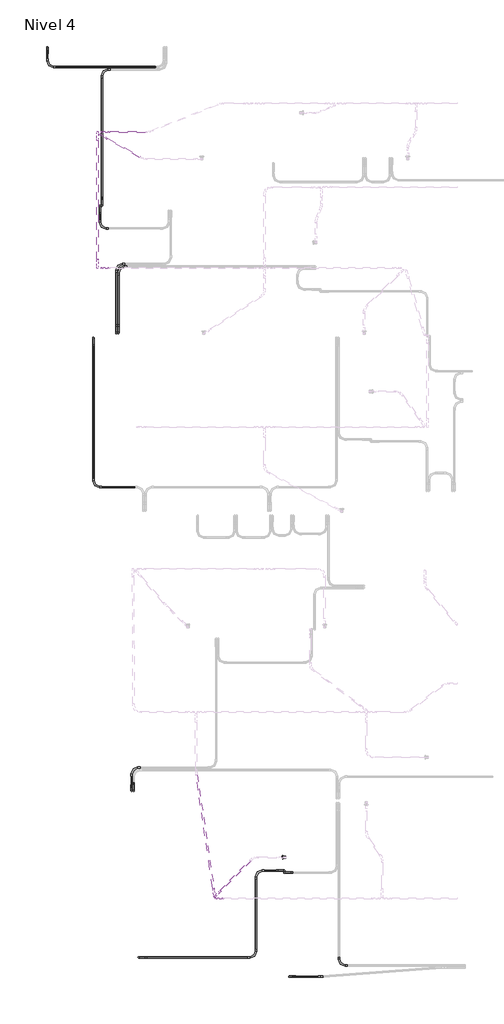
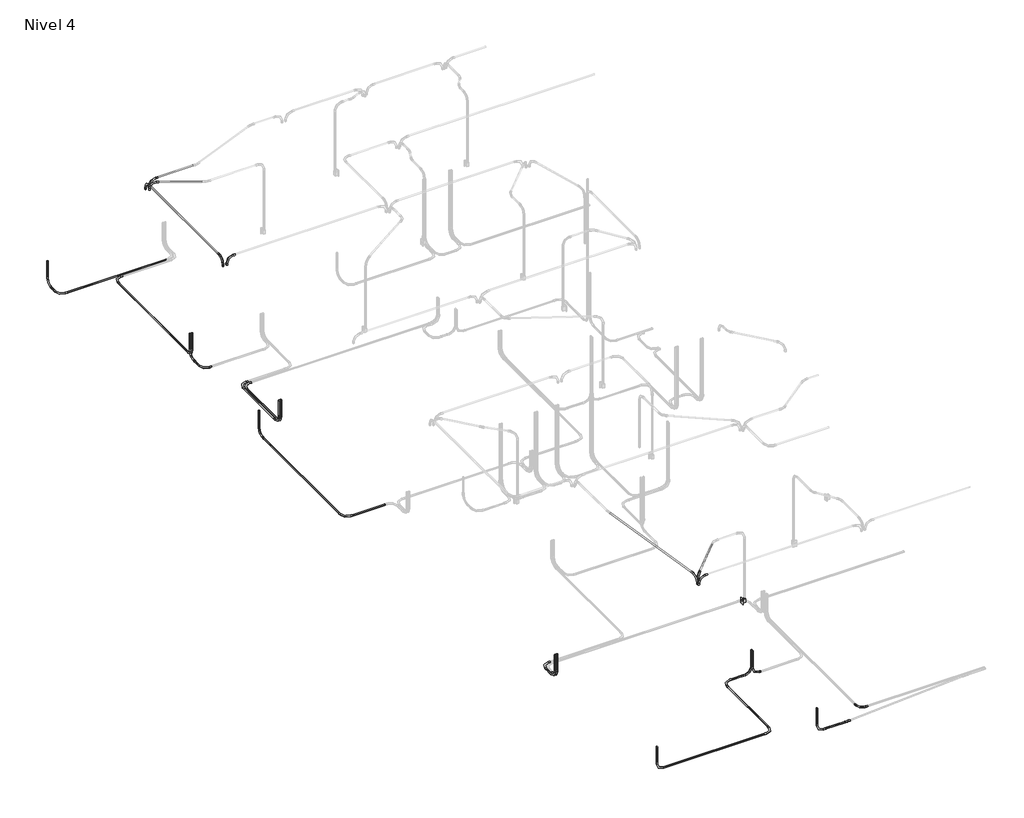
# One storey, part 1 of 9: 31 cable carrier fittings, 30 cable carrier segments, 1 switching device.
"""IFC4 building model written with IfcOpenShell, lengths in millimetres."""

from ifc_helpers import new_model, si_unit, point, frame, frame_2d, origin, place, context, project, spatial, circle_curve, trimmed, segment, composite_curve, outline, extrude, transform, mapped, element, save
from components import m_codo_de_tubo_extremo_liso_pvc_9da73e12, m_codo_de_tubo_extremo_liso_pvc_e945fc89, m_codo_de_tubo_extremo_liso_pvc_102f0f41, switching_device_22fed34b

model = new_model("IFC4")

# Units and contexts
model_context = context("Model", 3, world=origin())
ifc_project = project(units=[si_unit("LENGTHUNIT", "METRE", prefix="MILLI")], contexts=[model_context])

# Site, building, storey
site = spatial("IfcSite", under=ifc_project)
building = spatial("IfcBuilding", under=site)
storey = spatial("IfcBuildingStorey", under=building, Name="Nivel 4", Elevation=8100.0)

# Cable carrier fittings
placement = place(None, origin())
m_codo_de_tubo_extremo_liso_pvc_shape = m_codo_de_tubo_extremo_liso_pvc_9da73e12(model_context)
element("IfcCableCarrierFitting", 1, ObjectType="M_Codo de tubo - Extremo liso - PVC : CODO POTENCIA", at=placement, inside=storey, context=model_context, shape_type="MappedRepresentation", body=[
    mapped(m_codo_de_tubo_extremo_liso_pvc_shape, transform((-1558.5868884, 17544.6371118, 8030.0), x_axis=(0.0, 0.0, -1.0), y_axis=(0.0, -1.0, 0.0), z_axis=(-1.0, 0.0, 0.0))),
])
element("IfcCableCarrierFitting", 2, ObjectType="M_Codo de tubo - Extremo liso - PVC : CODO POTENCIA", at=placement, inside=storey, context=model_context, shape_type="MappedRepresentation", body=[
    mapped(m_codo_de_tubo_extremo_liso_pvc_shape, transform((-717.4920977, 12244.6371118, 8030.0), x_axis=(0.0, 0.0, -1.0), y_axis=(0.0, -1.0, 0.0), z_axis=(-1.0, 0.0, 0.0))),
])
element("IfcCableCarrierFitting", 3, ObjectType="M_Codo de tubo - Extremo liso - PVC : CODO POTENCIA", at=placement, inside=storey, context=model_context, shape_type="MappedRepresentation", body=[
    mapped(m_codo_de_tubo_extremo_liso_pvc_shape, transform((-717.4920977, 9523.463856, 8030.0), x_axis=(0.0, -1.0, 0.0), y_axis=(1.0, 0.0, 0.0), z_axis=(0.0, 0.0, 1.0))),
])
element("IfcCableCarrierFitting", 4, ObjectType="M_Codo de tubo - Extremo liso - PVC : CODO POTENCIA", at=placement, inside=storey, context=model_context, shape_type="MappedRepresentation", body=[
    mapped(m_codo_de_tubo_extremo_liso_pvc_shape, transform((-262.0312302, 13545.7723493, 8030.0), x_axis=(-1.0, 0.0, 0.0), y_axis=(0.0, -1.0, 0.0), z_axis=(0.0, 0.0, 1.0))),
])
element("IfcCableCarrierFitting", 5, ObjectType="M_Codo de tubo - Extremo liso - PVC : CODO POTENCIA", at=placement, inside=storey, context=model_context, shape_type="MappedRepresentation", body=[
    mapped(m_codo_de_tubo_extremo_liso_pvc_shape, transform((-262.0312302, 12335.3628882, 8030.0), x_axis=(0.0, 0.0, -1.0), y_axis=(0.0, 1.0, 0.0), z_axis=(1.0, 0.0, 0.0))),
])
element("IfcCableCarrierFitting", 6, ObjectType="M_Codo de tubo - Extremo liso - PVC : CODO POTENCIA", at=placement, inside=storey, context=model_context, shape_type="MappedRepresentation", body=[
    mapped(m_codo_de_tubo_extremo_liso_pvc_shape, transform((-298.0948698, 13596.0465616, 8030.0), x_axis=(-1.0, 0.0, 0.0), y_axis=(0.0, -1.0, 0.0), z_axis=(0.0, 0.0, 1.0))),
])
element("IfcCableCarrierFitting", 7, ObjectType="M_Codo de tubo - Extremo liso - PVC : CODO POTENCIA", at=placement, inside=storey, context=model_context, shape_type="MappedRepresentation", body=[
    mapped(m_codo_de_tubo_extremo_liso_pvc_shape, transform((-298.0948698, 12335.3628882, 8030.0), x_axis=(0.0, 0.0, -1.0), y_axis=(0.0, 1.0, 0.0), z_axis=(1.0, 0.0, 0.0))),
])
element("IfcCableCarrierFitting", 8, ObjectType="M_Codo de tubo - Extremo liso - PVC : CODO POTENCIA", at=placement, inside=storey, context=model_context, shape_type="MappedRepresentation", body=[
    mapped(m_codo_de_tubo_extremo_liso_pvc_shape, transform((-598.1296744, 14653.8429955, 8030.0), x_axis=(0.0, 0.0, -1.0), y_axis=(0.0, -1.0, 0.0), z_axis=(-1.0, 0.0, 0.0))),
])
element("IfcCableCarrierFitting", 9, ObjectType="M_Codo de tubo - Extremo liso - PVC : CODO POTENCIA", at=placement, inside=storey, context=model_context, shape_type="MappedRepresentation", body=[
    mapped(m_codo_de_tubo_extremo_liso_pvc_shape, transform((-598.1296744, 14243.117219, 8030.0), x_axis=(0.0, -1.0, 0.0), y_axis=(1.0, 0.0, 0.0), z_axis=(0.0, 0.0, 1.0))),
])
element("IfcCableCarrierFitting", 10, ObjectType="M_Codo de tubo - Extremo liso - PVC : CODO POTENCIA", at=placement, inside=storey, context=model_context, shape_type="MappedRepresentation", body=[
    mapped(m_codo_de_tubo_extremo_liso_pvc_shape, transform((-562.0660348, 17141.7513363, 8030.0), x_axis=(-1.0, 0.0, 0.0), y_axis=(0.0, -1.0, 0.0), z_axis=(0.0, 0.0, 1.0))),
])
element("IfcCableCarrierFitting", 11, ObjectType="M_Codo de tubo - Extremo liso - PVC : CODO POTENCIA", at=placement, inside=storey, context=model_context, shape_type="MappedRepresentation", body=[
    mapped(m_codo_de_tubo_extremo_liso_pvc_shape, transform((-562.0660348, 14653.8429955, 8030.0), x_axis=(0.0, 0.0, -1.0), y_axis=(0.0, 1.0, 0.0), z_axis=(1.0, 0.0, 0.0))),
])
element("IfcCableCarrierFitting", 12, ObjectType="M_Codo de tubo - Extremo liso - PVC : CODO POTENCIA", at=placement, inside=storey, context=model_context, shape_type="MappedRepresentation", body=[
    mapped(m_codo_de_tubo_extremo_liso_pvc_shape, transform((-1558.5868884, 17184.6371118, 8030.0), x_axis=(0.0, -1.0, 0.0), y_axis=(1.0, 0.0, 0.0), z_axis=(0.0, 0.0, 1.0))),
])
element("IfcCableCarrierFitting", 13, ObjectType="M_Codo de tubo - Extremo liso - PVC : CODO POTENCIA", at=placement, inside=storey, context=model_context, shape_type="MappedRepresentation", body=[
    mapped(m_codo_de_tubo_extremo_liso_pvc_shape, transform((17.0761068, 3985.3628882, 8030.0), x_axis=(0.0, 0.0, -1.0), y_axis=(0.0, 1.0, 0.0), z_axis=(1.0, 0.0, 0.0))),
])
element("IfcCableCarrierFitting", 14, ObjectType="M_Codo de tubo - Extremo liso - PVC : CODO POTENCIA", at=placement, inside=storey, context=model_context, shape_type="MappedRepresentation", body=[
    mapped(m_codo_de_tubo_extremo_liso_pvc_shape, transform((-18.9875328, 3985.3628882, 8030.0), x_axis=(0.0, 0.0, -1.0), y_axis=(0.0, 1.0, 0.0), z_axis=(1.0, 0.0, 0.0))),
])
element("IfcCableCarrierFitting", 15, ObjectType="M_Codo de tubo - Extremo liso - PVC : CODO POTENCIA", at=placement, inside=storey, context=model_context, shape_type="MappedRepresentation", body=[
    mapped(m_codo_de_tubo_extremo_liso_pvc_shape, transform((-18.9875328, 4410.0, 8030.0), x_axis=(-1.0, 0.0, 0.0), y_axis=(0.0, -1.0, 0.0), z_axis=(0.0, 0.0, 1.0))),
])
element("IfcCableCarrierFitting", 16, ObjectType="M_Codo de tubo - Extremo liso - PVC : CODO POTENCIA", at=placement, inside=storey, context=model_context, shape_type="MappedRepresentation", body=[
    mapped(m_codo_de_tubo_extremo_liso_pvc_shape, transform((105.3628882, 951.2722594, 8030.0), x_axis=(0.0, 0.0, -1.0), y_axis=(1.0, 0.0, 0.0), z_axis=(0.0, -1.0, 0.0))),
])
element("IfcCableCarrierFitting", 17, ObjectType="M_Codo de tubo - Extremo liso - PVC : CODO POTENCIA", at=placement, inside=storey, context=model_context, shape_type="MappedRepresentation", body=[
    mapped(m_codo_de_tubo_extremo_liso_pvc_shape, transform((2855.3628882, 598.5741745, 8030.0), x_axis=(0.0, 0.0, -1.0), y_axis=(1.0, 0.0, 0.0), z_axis=(0.0, -1.0, 0.0))),
])
element("IfcCableCarrierFitting", 18, ObjectType="M_Codo de tubo - Extremo liso - PVC : CODO POTENCIA", at=placement, inside=storey, context=model_context, shape_type="MappedRepresentation", body=[
    mapped(m_codo_de_tubo_extremo_liso_pvc_shape, transform((2764.6371118, 2532.1956779, 8030.0), x_axis=(0.0, 0.0, -1.0), y_axis=(-1.0, 0.0, 0.0), z_axis=(0.0, 1.0, 0.0))),
])
element("IfcCableCarrierFitting", 19, ObjectType="M_Codo de tubo - Extremo liso - PVC : CODO POTENCIA", at=placement, inside=storey, context=model_context, shape_type="MappedRepresentation", body=[
    mapped(m_codo_de_tubo_extremo_liso_pvc_shape, transform((3759.7333421, 805.065499, 8030.0), x_axis=(0.0, -1.0, 0.0), y_axis=(1.0, 0.0, 0.0), z_axis=(0.0, 0.0, 1.0))),
])
element("IfcCableCarrierFitting", 20, ObjectType="M_Codo de tubo - Extremo liso - PVC : CODO POTENCIA", at=placement, inside=storey, context=model_context, shape_type="MappedRepresentation", body=[
    mapped(m_codo_de_tubo_extremo_liso_pvc_shape, transform((2245.3628882, 2532.1956779, 8030.0), x_axis=(-1.0, 0.0, 0.0), y_axis=(0.0, -1.0, 0.0), z_axis=(0.0, 0.0, 1.0))),
])
element("IfcCableCarrierFitting", 21, ObjectType="M_Codo de tubo - Extremo liso - PVC : CODO POTENCIA", at=placement, inside=storey, context=model_context, shape_type="MappedRepresentation", body=[
    mapped(m_codo_de_tubo_extremo_liso_pvc_shape, transform((2245.3628882, 951.2722594, 8030.0), x_axis=(1.0, 0.0, 0.0), y_axis=(0.0, 1.0, 0.0), z_axis=(0.0, 0.0, 1.0))),
])
element("IfcCableCarrierFitting", 22, ObjectType="M_Codo de tubo - Extremo liso - PVC : CODO POTENCIA", at=placement, inside=storey, context=model_context, shape_type="MappedRepresentation", body=[
    mapped(m_codo_de_tubo_extremo_liso_pvc_shape, transform((2764.6371118, 2496.1320383, 8030.0), x_axis=(0.0, 0.0, -1.0), y_axis=(1.0, 0.0, 0.0), z_axis=(0.0, -1.0, 0.0))),
])
m_codo_de_tubo_extremo_liso_pvc_2_shape = m_codo_de_tubo_extremo_liso_pvc_e945fc89(model_context)
element("IfcCableCarrierFitting", 23, ObjectType="M_Codo de tubo - Extremo liso - PVC : CODO POTENCIA", at=placement, inside=storey, context=model_context, shape_type="MappedRepresentation", body=[
    mapped(m_codo_de_tubo_extremo_liso_pvc_2_shape, transform((3425.3628882, 598.5741745, 8030.0), x_axis=(1.0, 0.0, 0.0), y_axis=(0.0, 1.0, 0.0), z_axis=(0.0, 0.0, 1.0))),
])
element("IfcCableCarrierFitting", 24, ObjectType="M_Codo de tubo - Extremo liso - PVC : CODO ILUMINACION", at=placement, inside=storey, context=model_context, shape_type="MappedRepresentation", body=[
    mapped(m_codo_de_tubo_extremo_liso_pvc_shape, transform((-574.4336886, 16001.2965089, 10650.0), x_axis=(-1.0, 0.0, 0.0), y_axis=(0.0, 0.0, -1.0), z_axis=(0.0, -1.0, 0.0))),
])
element("IfcCableCarrierFitting", 25, ObjectType="M_Codo de tubo - Extremo liso - PVC : CODO ILUMINACION", at=placement, inside=storey, context=model_context, shape_type="MappedRepresentation", body=[
    mapped(m_codo_de_tubo_extremo_liso_pvc_shape, transform((-574.7554902, 13521.2601744, 10650.0), x_axis=(-1.0, 0.0, 0.0), y_axis=(0.0, 0.0, -1.0), z_axis=(0.0, -1.0, 0.0))),
])
element("IfcCableCarrierFitting", 26, ObjectType="M_Codo de tubo - Extremo liso - PVC : CODO ILUMINACION", at=placement, inside=storey, context=model_context, shape_type="MappedRepresentation", body=[
    mapped(m_codo_de_tubo_extremo_liso_pvc_shape, transform((-644.8986574, 16001.2965089, 10650.0), x_axis=(0.0, 1.0, 0.0), y_axis=(0.0, 0.0, -1.0), z_axis=(-1.0, 0.0, 0.0))),
])
element("IfcCableCarrierFitting", 27, ObjectType="M_Codo de tubo - Extremo liso - PVC : CODO ILUMINACION", at=placement, inside=storey, context=model_context, shape_type="MappedRepresentation", body=[
    mapped(m_codo_de_tubo_extremo_liso_pvc_shape, transform((-598.987036, 15953.0013122, 10650.0), x_axis=(-0.872280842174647, 0.4890052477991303, 0.0), y_axis=(0.0, 0.0, -1.0000000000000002), z_axis=(-0.4890052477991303, -0.872280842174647, 0.0))),
])
element("IfcCableCarrierFitting", 28, ObjectType="M_Codo de tubo - Extremo liso - PVC : CODO ILUMINACION", at=placement, inside=storey, context=model_context, shape_type="MappedRepresentation", body=[
    mapped(m_codo_de_tubo_extremo_liso_pvc_shape, transform((1504.5487012, 2026.1291573, 10650.0), x_axis=(-1.0, 0.0, 0.0), y_axis=(0.0, 0.0, -1.0), z_axis=(0.0, -1.0, 0.0))),
])
m_codo_de_tubo_extremo_liso_pvc_3_shape = m_codo_de_tubo_extremo_liso_pvc_102f0f41(model_context)
element("IfcCableCarrierFitting", 29, ObjectType="M_Codo de tubo - Extremo liso - PVC : CODO ILUMINACION", at=placement, inside=storey, context=model_context, shape_type="MappedRepresentation", body=[
    mapped(m_codo_de_tubo_extremo_liso_pvc_3_shape, transform((-644.8986574, 13523.5594057, 10650.0), x_axis=(0.0, -1.0, 0.0), y_axis=(0.0, 0.0, 1.0), z_axis=(-1.0, 0.0, 0.0))),
])
element("IfcCableCarrierFitting", 30, ObjectType="M_Codo de tubo - Extremo liso - PVC : CODO ILUMINACION", at=placement, inside=storey, context=model_context, shape_type="MappedRepresentation", body=[
    mapped(m_codo_de_tubo_extremo_liso_pvc_3_shape, transform((1492.8488633, 2054.1019402, 10650.0), x_axis=(-0.7022150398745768, -0.7119649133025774, 0.0), y_axis=(0.0, 0.0, 1.0), z_axis=(-0.7119649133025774, 0.7022150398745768, 0.0))),
])
element("IfcCableCarrierFitting", 31, ObjectType="M_Codo de tubo - Extremo liso - PVC : CODO ILUMINACION", at=placement, inside=storey, context=model_context, shape_type="MappedRepresentation", body=[
    mapped(m_codo_de_tubo_extremo_liso_pvc_3_shape, transform((1493.1029204, 2054.3055612, 10650.0), x_axis=(0.145996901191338, -0.9892850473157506, 0.0), y_axis=(0.0, 0.0, 1.0000000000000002), z_axis=(-0.9892850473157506, -0.145996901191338, 0.0))),
])

# Cable carrier segments
element("IfcCableCarrierSegment", 32, ObjectType="PVC-SEL, POTENCIA", at=placement, inside=storey, context=model_context, shape_type="SweptSolid", body=[
    extrude(outline(composite_curve([segment(trimmed(circle_curve(frame_2d((8030.0, -1558.5868884)), 11.71), [point((8030.0, -1570.2968884))], [point((8018.29, -1558.5868884))], False, "CARTESIAN"), True, "CONTINUOUS"), segment(trimmed(circle_curve(frame_2d((8030.0, -1558.5868884)), 11.71), [point((8018.29, -1558.5868884))], [point((8030.0, -1546.8768884))], False, "CARTESIAN"), True, "CONTINUOUS"), segment(trimmed(circle_curve(frame_2d((8030.0, -1558.5868884)), 11.71), [point((8030.0, -1546.8768884))], [point((8041.71, -1558.5868884))], False, "CARTESIAN"), True, "CONTINUOUS"), segment(trimmed(circle_curve(frame_2d((8030.0, -1558.5868884)), 11.71), [point((8041.71, -1558.5868884))], [point((8030.0, -1570.2968884))], False, "CARTESIAN"), True, "CONTINUOUS")], self_intersect=False)), frame((0.0, 17337.0371118, 0.0), z_axis=(0.0, 1.0, 0.0), x_axis=(0.0, 0.0, 1.0)), (0.0, 0.0, 1.0), 55.2),
])
element("IfcCableCarrierSegment", 33, ObjectType="PVC-SEL, POTENCIA", at=placement, inside=storey, context=model_context, shape_type="SweptSolid", body=[
    extrude(outline(composite_curve([segment(trimmed(circle_curve(frame_2d((-1558.5868884, 17544.6371118)), 11.71), [point((-1546.8768884, 17544.6371118))], [point((-1558.5868884, 17532.9271118))], False, "CARTESIAN"), True, "CONTINUOUS"), segment(trimmed(circle_curve(frame_2d((-1558.5868884, 17544.6371118)), 11.71), [point((-1558.5868884, 17532.9271118))], [point((-1570.2968884, 17544.6371118))], False, "CARTESIAN"), True, "CONTINUOUS"), segment(trimmed(circle_curve(frame_2d((-1558.5868884, 17544.6371118)), 11.71), [point((-1570.2968884, 17544.6371118))], [point((-1558.5868884, 17556.3471118))], False, "CARTESIAN"), True, "CONTINUOUS"), segment(trimmed(circle_curve(frame_2d((-1558.5868884, 17544.6371118)), 11.71), [point((-1558.5868884, 17556.3471118))], [point((-1546.8768884, 17544.6371118))], False, "CARTESIAN"), True, "CONTINUOUS")], self_intersect=False)), frame((0.0, 0.0, 8182.4), z_axis=(0.0, 0.0, 1.0), x_axis=(1.0, 0.0, 0.0)), (0.0, 0.0, 1.0), 297.3020537),
])
element("IfcCableCarrierSegment", 34, ObjectType="PVC-SEL, POTENCIA", at=placement, inside=storey, context=model_context, shape_type="SweptSolid", body=[
    extrude(outline(composite_curve([segment(trimmed(circle_curve(frame_2d((8030.0, -562.0660348)), 11.71), [point((8030.0, -573.7760348))], [point((8018.29, -562.0660348))], False, "CARTESIAN"), True, "CONTINUOUS"), segment(trimmed(circle_curve(frame_2d((8030.0, -562.0660348)), 11.71), [point((8018.29, -562.0660348))], [point((8030.0, -550.3560348))], False, "CARTESIAN"), True, "CONTINUOUS"), segment(trimmed(circle_curve(frame_2d((8030.0, -562.0660348)), 11.71), [point((8030.0, -550.3560348))], [point((8041.71, -562.0660348))], False, "CARTESIAN"), True, "CONTINUOUS"), segment(trimmed(circle_curve(frame_2d((8030.0, -562.0660348)), 11.71), [point((8041.71, -562.0660348))], [point((8030.0, -573.7760348))], False, "CARTESIAN"), True, "CONTINUOUS")], self_intersect=False)), frame((0.0, 14806.2429955, 0.0), z_axis=(0.0, 1.0, 0.0), x_axis=(0.0, 0.0, 1.0)), (0.0, 0.0, 1.0), 2183.1083408),
])
element("IfcCableCarrierSegment", 35, ObjectType="PVC-SEL, POTENCIA", at=placement, inside=storey, context=model_context, shape_type="SweptSolid", body=[
    extrude(outline(composite_curve([segment(trimmed(circle_curve(frame_2d((-562.0660348, 14653.8429955)), 11.71), [point((-550.3560348, 14653.8429955))], [point((-562.0660348, 14642.1329955))], False, "CARTESIAN"), True, "CONTINUOUS"), segment(trimmed(circle_curve(frame_2d((-562.0660348, 14653.8429955)), 11.71), [point((-562.0660348, 14642.1329955))], [point((-573.7760348, 14653.8429955))], False, "CARTESIAN"), True, "CONTINUOUS"), segment(trimmed(circle_curve(frame_2d((-562.0660348, 14653.8429955)), 11.71), [point((-573.7760348, 14653.8429955))], [point((-562.0660348, 14665.5529955))], False, "CARTESIAN"), True, "CONTINUOUS"), segment(trimmed(circle_curve(frame_2d((-562.0660348, 14653.8429955)), 11.71), [point((-562.0660348, 14665.5529955))], [point((-550.3560348, 14653.8429955))], False, "CARTESIAN"), True, "CONTINUOUS")], self_intersect=False)), frame((0.0, 0.0, 8182.4), z_axis=(0.0, 0.0, 1.0), x_axis=(1.0, 0.0, 0.0)), (0.0, 0.0, 1.0), 297.3020537),
])
element("IfcCableCarrierSegment", 36, ObjectType="PVC-SEL, POTENCIA", at=placement, inside=storey, context=model_context, shape_type="SweptSolid", body=[
    extrude(outline(composite_curve([segment(trimmed(circle_curve(frame_2d((8030.0, -717.4920977)), 11.71), [point((8030.0, -729.2020977))], [point((8018.29, -717.4920977))], False, "CARTESIAN"), True, "CONTINUOUS"), segment(trimmed(circle_curve(frame_2d((8030.0, -717.4920977)), 11.71), [point((8018.29, -717.4920977))], [point((8030.0, -705.7820977))], False, "CARTESIAN"), True, "CONTINUOUS"), segment(trimmed(circle_curve(frame_2d((8030.0, -717.4920977)), 11.71), [point((8030.0, -705.7820977))], [point((8041.71, -717.4920977))], False, "CARTESIAN"), True, "CONTINUOUS"), segment(trimmed(circle_curve(frame_2d((8030.0, -717.4920977)), 11.71), [point((8041.71, -717.4920977))], [point((8030.0, -729.2020977))], False, "CARTESIAN"), True, "CONTINUOUS")], self_intersect=False)), frame((0.0, 9675.863856, 0.0), z_axis=(0.0, 1.0, 0.0), x_axis=(0.0, 0.0, 1.0)), (0.0, 0.0, 1.0), 2416.3732558),
])
element("IfcCableCarrierSegment", 37, ObjectType="PVC-SEL, POTENCIA", at=placement, inside=storey, context=model_context, shape_type="SweptSolid", body=[
    extrude(outline(composite_curve([segment(trimmed(circle_curve(frame_2d((-717.4920977, 12244.6371118)), 11.71), [point((-705.7820977, 12244.6371118))], [point((-717.4920977, 12232.9271118))], False, "CARTESIAN"), True, "CONTINUOUS"), segment(trimmed(circle_curve(frame_2d((-717.4920977, 12244.6371118)), 11.71), [point((-717.4920977, 12232.9271118))], [point((-729.2020977, 12244.6371118))], False, "CARTESIAN"), True, "CONTINUOUS"), segment(trimmed(circle_curve(frame_2d((-717.4920977, 12244.6371118)), 11.71), [point((-729.2020977, 12244.6371118))], [point((-717.4920977, 12256.3471118))], False, "CARTESIAN"), True, "CONTINUOUS"), segment(trimmed(circle_curve(frame_2d((-717.4920977, 12244.6371118)), 11.71), [point((-717.4920977, 12256.3471118))], [point((-705.7820977, 12244.6371118))], False, "CARTESIAN"), True, "CONTINUOUS")], self_intersect=False)), frame((0.0, 0.0, 8182.4), z_axis=(0.0, 0.0, 1.0), x_axis=(1.0, 0.0, 0.0)), (0.0, 0.0, 1.0), 297.3020537),
])
element("IfcCableCarrierSegment", 38, ObjectType="PVC-SEL, POTENCIA", at=placement, inside=storey, context=model_context, shape_type="SweptSolid", body=[
    extrude(outline(composite_curve([segment(trimmed(circle_curve(frame_2d((9523.463856, 8030.0)), 11.71), [point((9535.173856, 8030.0))], [point((9523.463856, 8018.29))], False, "CARTESIAN"), True, "CONTINUOUS"), segment(trimmed(circle_curve(frame_2d((9523.463856, 8030.0)), 11.71), [point((9523.463856, 8018.29))], [point((9511.753856, 8030.0))], False, "CARTESIAN"), True, "CONTINUOUS"), segment(trimmed(circle_curve(frame_2d((9523.463856, 8030.0)), 11.71), [point((9511.753856, 8030.0))], [point((9523.463856, 8041.71))], False, "CARTESIAN"), True, "CONTINUOUS"), segment(trimmed(circle_curve(frame_2d((9523.463856, 8030.0)), 11.71), [point((9523.463856, 8041.71))], [point((9535.173856, 8030.0))], False, "CARTESIAN"), True, "CONTINUOUS")], self_intersect=False)), frame((-565.0920977, 0.0, 0.0), z_axis=(1.0, 0.0, 0.0), x_axis=(0.0, 1.0, 0.0)), (0.0, 0.0, 1.0), 607.1395395),
])
element("IfcCableCarrierSegment", 39, ObjectType="PVC-SEL, POTENCIA", at=placement, inside=storey, context=model_context, shape_type="SweptSolid", body=[
    extrude(outline(composite_curve([segment(trimmed(circle_curve(frame_2d((8030.0, -262.0312302)), 11.71), [point((8030.0, -273.7412302))], [point((8018.29, -262.0312302))], False, "CARTESIAN"), True, "CONTINUOUS"), segment(trimmed(circle_curve(frame_2d((8030.0, -262.0312302)), 11.71), [point((8018.29, -262.0312302))], [point((8030.0, -250.3212302))], False, "CARTESIAN"), True, "CONTINUOUS"), segment(trimmed(circle_curve(frame_2d((8030.0, -262.0312302)), 11.71), [point((8030.0, -250.3212302))], [point((8041.71, -262.0312302))], False, "CARTESIAN"), True, "CONTINUOUS"), segment(trimmed(circle_curve(frame_2d((8030.0, -262.0312302)), 11.71), [point((8041.71, -262.0312302))], [point((8030.0, -273.7412302))], False, "CARTESIAN"), True, "CONTINUOUS")], self_intersect=False)), frame((0.0, 12487.7628882, 0.0), z_axis=(0.0, 1.0, 0.0), x_axis=(0.0, 0.0, 1.0)), (0.0, 0.0, 1.0), 905.609461),
])
element("IfcCableCarrierSegment", 40, ObjectType="PVC-SEL, POTENCIA", at=placement, inside=storey, context=model_context, shape_type="SweptSolid", body=[
    extrude(outline(composite_curve([segment(trimmed(circle_curve(frame_2d((-262.0312302, 12335.3628882)), 11.71), [point((-250.3212302, 12335.3628882))], [point((-262.0312302, 12323.6528882))], False, "CARTESIAN"), True, "CONTINUOUS"), segment(trimmed(circle_curve(frame_2d((-262.0312302, 12335.3628882)), 11.71), [point((-262.0312302, 12323.6528882))], [point((-273.7412302, 12335.3628882))], False, "CARTESIAN"), True, "CONTINUOUS"), segment(trimmed(circle_curve(frame_2d((-262.0312302, 12335.3628882)), 11.71), [point((-273.7412302, 12335.3628882))], [point((-262.0312302, 12347.0728882))], False, "CARTESIAN"), True, "CONTINUOUS"), segment(trimmed(circle_curve(frame_2d((-262.0312302, 12335.3628882)), 11.71), [point((-262.0312302, 12347.0728882))], [point((-250.3212302, 12335.3628882))], False, "CARTESIAN"), True, "CONTINUOUS")], self_intersect=False)), frame((0.0, 0.0, 8182.4), z_axis=(0.0, 0.0, 1.0), x_axis=(1.0, 0.0, 0.0)), (0.0, 0.0, 1.0), 297.3020537),
])
element("IfcCableCarrierSegment", 41, ObjectType="PVC-SEL, POTENCIA", at=placement, inside=storey, context=model_context, shape_type="SweptSolid", body=[
    extrude(outline(composite_curve([segment(trimmed(circle_curve(frame_2d((8030.0, -298.0948698)), 11.71), [point((8030.0, -309.8048698))], [point((8018.29, -298.0948698))], False, "CARTESIAN"), True, "CONTINUOUS"), segment(trimmed(circle_curve(frame_2d((8030.0, -298.0948698)), 11.71), [point((8018.29, -298.0948698))], [point((8030.0, -286.3848698))], False, "CARTESIAN"), True, "CONTINUOUS"), segment(trimmed(circle_curve(frame_2d((8030.0, -298.0948698)), 11.71), [point((8030.0, -286.3848698))], [point((8041.71, -298.0948698))], False, "CARTESIAN"), True, "CONTINUOUS"), segment(trimmed(circle_curve(frame_2d((8030.0, -298.0948698)), 11.71), [point((8041.71, -298.0948698))], [point((8030.0, -309.8048698))], False, "CARTESIAN"), True, "CONTINUOUS")], self_intersect=False)), frame((0.0, 12487.7628882, 0.0), z_axis=(0.0, 1.0, 0.0), x_axis=(0.0, 0.0, 1.0)), (0.0, 0.0, 1.0), 955.8836734),
])
element("IfcCableCarrierSegment", 42, ObjectType="PVC-SEL, POTENCIA", at=placement, inside=storey, context=model_context, shape_type="SweptSolid", body=[
    extrude(outline(composite_curve([segment(trimmed(circle_curve(frame_2d((-298.0948698, 12335.3628882)), 11.71), [point((-286.3848698, 12335.3628882))], [point((-298.0948698, 12323.6528882))], False, "CARTESIAN"), True, "CONTINUOUS"), segment(trimmed(circle_curve(frame_2d((-298.0948698, 12335.3628882)), 11.71), [point((-298.0948698, 12323.6528882))], [point((-309.8048698, 12335.3628882))], False, "CARTESIAN"), True, "CONTINUOUS"), segment(trimmed(circle_curve(frame_2d((-298.0948698, 12335.3628882)), 11.71), [point((-309.8048698, 12335.3628882))], [point((-298.0948698, 12347.0728882))], False, "CARTESIAN"), True, "CONTINUOUS"), segment(trimmed(circle_curve(frame_2d((-298.0948698, 12335.3628882)), 11.71), [point((-298.0948698, 12347.0728882))], [point((-286.3848698, 12335.3628882))], False, "CARTESIAN"), True, "CONTINUOUS")], self_intersect=False)), frame((0.0, 0.0, 8182.4), z_axis=(0.0, 0.0, 1.0), x_axis=(1.0, 0.0, 0.0)), (0.0, 0.0, 1.0), 297.3020537),
])
element("IfcCableCarrierSegment", 43, ObjectType="PVC-SEL, POTENCIA", at=placement, inside=storey, context=model_context, shape_type="SweptSolid", body=[
    extrude(outline(composite_curve([segment(trimmed(circle_curve(frame_2d((8030.0, -598.1296744)), 11.71), [point((8030.0, -609.8396744))], [point((8018.29, -598.1296744))], False, "CARTESIAN"), True, "CONTINUOUS"), segment(trimmed(circle_curve(frame_2d((8030.0, -598.1296744)), 11.71), [point((8018.29, -598.1296744))], [point((8030.0, -586.4196744))], False, "CARTESIAN"), True, "CONTINUOUS"), segment(trimmed(circle_curve(frame_2d((8030.0, -598.1296744)), 11.71), [point((8030.0, -586.4196744))], [point((8041.71, -598.1296744))], False, "CARTESIAN"), True, "CONTINUOUS"), segment(trimmed(circle_curve(frame_2d((8030.0, -598.1296744)), 11.71), [point((8041.71, -598.1296744))], [point((8030.0, -609.8396744))], False, "CARTESIAN"), True, "CONTINUOUS")], self_intersect=False)), frame((0.0, 14395.517219, 0.0), z_axis=(0.0, 1.0, 0.0), x_axis=(0.0, 0.0, 1.0)), (0.0, 0.0, 1.0), 105.9257764),
])
element("IfcCableCarrierSegment", 44, ObjectType="PVC-SEL, POTENCIA", at=placement, inside=storey, context=model_context, shape_type="SweptSolid", body=[
    extrude(outline(composite_curve([segment(trimmed(circle_curve(frame_2d((-598.1296744, 14653.8429955)), 11.71), [point((-586.4196744, 14653.8429955))], [point((-598.1296744, 14642.1329955))], False, "CARTESIAN"), True, "CONTINUOUS"), segment(trimmed(circle_curve(frame_2d((-598.1296744, 14653.8429955)), 11.71), [point((-598.1296744, 14642.1329955))], [point((-609.8396744, 14653.8429955))], False, "CARTESIAN"), True, "CONTINUOUS"), segment(trimmed(circle_curve(frame_2d((-598.1296744, 14653.8429955)), 11.71), [point((-609.8396744, 14653.8429955))], [point((-598.1296744, 14665.5529955))], False, "CARTESIAN"), True, "CONTINUOUS"), segment(trimmed(circle_curve(frame_2d((-598.1296744, 14653.8429955)), 11.71), [point((-598.1296744, 14665.5529955))], [point((-586.4196744, 14653.8429955))], False, "CARTESIAN"), True, "CONTINUOUS")], self_intersect=False)), frame((0.0, 0.0, 8182.4), z_axis=(0.0, 0.0, 1.0), x_axis=(1.0, 0.0, 0.0)), (0.0, 0.0, 1.0), 297.3020537),
])
element("IfcCableCarrierSegment", 45, ObjectType="PVC-SEL, POTENCIA", at=placement, inside=storey, context=model_context, shape_type="SweptSolid", body=[
    extrude(outline(composite_curve([segment(trimmed(circle_curve(frame_2d((17184.6371118, 8030.0)), 11.71), [point((17196.3471118, 8030.0))], [point((17184.6371118, 8018.29))], False, "CARTESIAN"), True, "CONTINUOUS"), segment(trimmed(circle_curve(frame_2d((17184.6371118, 8030.0)), 11.71), [point((17184.6371118, 8018.29))], [point((17172.9271118, 8030.0))], False, "CARTESIAN"), True, "CONTINUOUS"), segment(trimmed(circle_curve(frame_2d((17184.6371118, 8030.0)), 11.71), [point((17172.9271118, 8030.0))], [point((17184.6371118, 8041.71))], False, "CARTESIAN"), True, "CONTINUOUS"), segment(trimmed(circle_curve(frame_2d((17184.6371118, 8030.0)), 11.71), [point((17184.6371118, 8041.71))], [point((17196.3471118, 8030.0))], False, "CARTESIAN"), True, "CONTINUOUS")], self_intersect=False)), frame((-1406.1868884, 0.0, 0.0), z_axis=(1.0, 0.0, 0.0), x_axis=(0.0, 1.0, 0.0)), (0.0, 0.0, 1.0), 1825.2785545),
])
element("IfcCableCarrierSegment", 46, ObjectType="PVC-SEL, POTENCIA", at=placement, inside=storey, context=model_context, shape_type="SweptSolid", body=[
    extrude(outline(composite_curve([segment(trimmed(circle_curve(frame_2d((17.0761068, 3985.3628882)), 11.71), [point((28.7861068, 3985.3628882))], [point((17.0761068, 3973.6528882))], False, "CARTESIAN"), True, "CONTINUOUS"), segment(trimmed(circle_curve(frame_2d((17.0761068, 3985.3628882)), 11.71), [point((17.0761068, 3973.6528882))], [point((5.3661068, 3985.3628882))], False, "CARTESIAN"), True, "CONTINUOUS"), segment(trimmed(circle_curve(frame_2d((17.0761068, 3985.3628882)), 11.71), [point((5.3661068, 3985.3628882))], [point((17.0761068, 3997.0728882))], False, "CARTESIAN"), True, "CONTINUOUS"), segment(trimmed(circle_curve(frame_2d((17.0761068, 3985.3628882)), 11.71), [point((17.0761068, 3997.0728882))], [point((28.7861068, 3985.3628882))], False, "CARTESIAN"), True, "CONTINUOUS")], self_intersect=False)), frame((0.0, 0.0, 8182.4), z_axis=(0.0, 0.0, 1.0), x_axis=(1.0, 0.0, 0.0)), (0.0, 0.0, 1.0), 297.3020537),
])
element("IfcCableCarrierSegment", 47, ObjectType="PVC-SEL, POTENCIA", at=placement, inside=storey, context=model_context, shape_type="SweptSolid", body=[
    extrude(outline(composite_curve([segment(trimmed(circle_curve(frame_2d((8030.0, -18.9875328)), 11.71), [point((8030.0, -7.2775328))], [point((8041.71, -18.9875328))], False, "CARTESIAN"), True, "CONTINUOUS"), segment(trimmed(circle_curve(frame_2d((8030.0, -18.9875328)), 11.71), [point((8041.71, -18.9875328))], [point((8030.0, -30.6975328))], False, "CARTESIAN"), True, "CONTINUOUS"), segment(trimmed(circle_curve(frame_2d((8030.0, -18.9875328)), 11.71), [point((8030.0, -30.6975328))], [point((8018.29, -18.9875328))], False, "CARTESIAN"), True, "CONTINUOUS"), segment(trimmed(circle_curve(frame_2d((8030.0, -18.9875328)), 11.71), [point((8018.29, -18.9875328))], [point((8030.0, -7.2775328))], False, "CARTESIAN"), True, "CONTINUOUS")], self_intersect=False)), frame((0.0, 4137.7628882, 0.0), z_axis=(0.0, 1.0, 0.0), x_axis=(0.0, 0.0, 1.0)), (0.0, 0.0, 1.0), 119.8371118),
])
element("IfcCableCarrierSegment", 48, ObjectType="PVC-SEL, POTENCIA", at=placement, inside=storey, context=model_context, shape_type="SweptSolid", body=[
    extrude(outline(composite_curve([segment(trimmed(circle_curve(frame_2d((-18.9875328, 3985.3628882)), 11.71), [point((-7.2775328, 3985.3628882))], [point((-18.9875328, 3973.6528882))], False, "CARTESIAN"), True, "CONTINUOUS"), segment(trimmed(circle_curve(frame_2d((-18.9875328, 3985.3628882)), 11.71), [point((-18.9875328, 3973.6528882))], [point((-30.6975328, 3985.3628882))], False, "CARTESIAN"), True, "CONTINUOUS"), segment(trimmed(circle_curve(frame_2d((-18.9875328, 3985.3628882)), 11.71), [point((-30.6975328, 3985.3628882))], [point((-18.9875328, 3997.0728882))], False, "CARTESIAN"), True, "CONTINUOUS"), segment(trimmed(circle_curve(frame_2d((-18.9875328, 3985.3628882)), 11.71), [point((-18.9875328, 3997.0728882))], [point((-7.2775328, 3985.3628882))], False, "CARTESIAN"), True, "CONTINUOUS")], self_intersect=False)), frame((0.0, 0.0, 8182.4), z_axis=(0.0, 0.0, 1.0), x_axis=(1.0, 0.0, 0.0)), (0.0, 0.0, 1.0), 297.3020537),
])
element("IfcCableCarrierSegment", 49, ObjectType="PVC-SEL, POTENCIA", at=placement, inside=storey, context=model_context, shape_type="SweptSolid", body=[
    extrude(outline(composite_curve([segment(trimmed(circle_curve(frame_2d((951.2722594, 8030.0)), 11.71), [point((939.5622594, 8030.0))], [point((951.2722594, 8041.71))], False, "CARTESIAN"), True, "CONTINUOUS"), segment(trimmed(circle_curve(frame_2d((951.2722594, 8030.0)), 11.71), [point((951.2722594, 8041.71))], [point((962.9822594, 8030.0))], False, "CARTESIAN"), True, "CONTINUOUS"), segment(trimmed(circle_curve(frame_2d((951.2722594, 8030.0)), 11.71), [point((962.9822594, 8030.0))], [point((951.2722594, 8018.29))], False, "CARTESIAN"), True, "CONTINUOUS"), segment(trimmed(circle_curve(frame_2d((951.2722594, 8030.0)), 11.71), [point((951.2722594, 8018.29))], [point((939.5622594, 8030.0))], False, "CARTESIAN"), True, "CONTINUOUS")], self_intersect=False)), frame((257.7628882, 0.0, 0.0), z_axis=(1.0, 0.0, 0.0), x_axis=(0.0, 1.0, 0.0)), (0.0, 0.0, 1.0), 1835.2),
])
element("IfcCableCarrierSegment", 50, ObjectType="PVC-SEL, POTENCIA", at=placement, inside=storey, context=model_context, shape_type="SweptSolid", body=[
    extrude(outline(composite_curve([segment(trimmed(circle_curve(frame_2d((105.3628882, 951.2722594)), 11.71), [point((117.0728882, 951.2722594))], [point((105.3628882, 939.5622594))], False, "CARTESIAN"), True, "CONTINUOUS"), segment(trimmed(circle_curve(frame_2d((105.3628882, 951.2722594)), 11.71), [point((105.3628882, 939.5622594))], [point((93.6528882, 951.2722594))], False, "CARTESIAN"), True, "CONTINUOUS"), segment(trimmed(circle_curve(frame_2d((105.3628882, 951.2722594)), 11.71), [point((93.6528882, 951.2722594))], [point((105.3628882, 962.9822594))], False, "CARTESIAN"), True, "CONTINUOUS"), segment(trimmed(circle_curve(frame_2d((105.3628882, 951.2722594)), 11.71), [point((105.3628882, 962.9822594))], [point((117.0728882, 951.2722594))], False, "CARTESIAN"), True, "CONTINUOUS")], self_intersect=False)), frame((0.0, 0.0, 8182.4), z_axis=(0.0, 0.0, 1.0), x_axis=(1.0, 0.0, 0.0)), (0.0, 0.0, 1.0), 297.3020537),
])
element("IfcCableCarrierSegment", 51, ObjectType="PVC-SEL, POTENCIA", at=placement, inside=storey, context=model_context, shape_type="SweptSolid", body=[
    extrude(outline(composite_curve([segment(trimmed(circle_curve(frame_2d((598.5741745, 8030.0)), 11.71), [point((586.8641745, 8030.0))], [point((598.5741745, 8041.71))], False, "CARTESIAN"), True, "CONTINUOUS"), segment(trimmed(circle_curve(frame_2d((598.5741745, 8030.0)), 11.71), [point((598.5741745, 8041.71))], [point((610.2841745, 8030.0))], False, "CARTESIAN"), True, "CONTINUOUS"), segment(trimmed(circle_curve(frame_2d((598.5741745, 8030.0)), 11.71), [point((610.2841745, 8030.0))], [point((598.5741745, 8018.29))], False, "CARTESIAN"), True, "CONTINUOUS"), segment(trimmed(circle_curve(frame_2d((598.5741745, 8030.0)), 11.71), [point((598.5741745, 8018.29))], [point((586.8641745, 8030.0))], False, "CARTESIAN"), True, "CONTINUOUS")], self_intersect=False)), frame((3007.7628882, 0.0, 0.0), z_axis=(1.0, 0.0, 0.0), x_axis=(0.0, 1.0, 0.0)), (0.0, 0.0, 1.0), 375.1855008),
])
element("IfcCableCarrierSegment", 52, ObjectType="PVC-SEL, POTENCIA", at=placement, inside=storey, context=model_context, shape_type="SweptSolid", body=[
    extrude(outline(composite_curve([segment(trimmed(circle_curve(frame_2d((2855.3628882, 598.5741745)), 11.71), [point((2867.0728882, 598.5741745))], [point((2855.3628882, 586.8641745))], False, "CARTESIAN"), True, "CONTINUOUS"), segment(trimmed(circle_curve(frame_2d((2855.3628882, 598.5741745)), 11.71), [point((2855.3628882, 586.8641745))], [point((2843.6528882, 598.5741745))], False, "CARTESIAN"), True, "CONTINUOUS"), segment(trimmed(circle_curve(frame_2d((2855.3628882, 598.5741745)), 11.71), [point((2843.6528882, 598.5741745))], [point((2855.3628882, 610.2841745))], False, "CARTESIAN"), True, "CONTINUOUS"), segment(trimmed(circle_curve(frame_2d((2855.3628882, 598.5741745)), 11.71), [point((2855.3628882, 610.2841745))], [point((2867.0728882, 598.5741745))], False, "CARTESIAN"), True, "CONTINUOUS")], self_intersect=False)), frame((0.0, 0.0, 8182.4), z_axis=(0.0, 0.0, 1.0), x_axis=(1.0, 0.0, 0.0)), (0.0, 0.0, 1.0), 297.3020537),
])
element("IfcCableCarrierSegment", 53, ObjectType="PVC-SEL, POTENCIA", at=placement, inside=storey, context=model_context, shape_type="SweptSolid", body=[
    extrude(outline(composite_curve([segment(trimmed(circle_curve(frame_2d((2764.6371118, 2496.1320383)), 11.71), [point((2776.3471118, 2496.1320383))], [point((2764.6371118, 2484.4220383))], False, "CARTESIAN"), True, "CONTINUOUS"), segment(trimmed(circle_curve(frame_2d((2764.6371118, 2496.1320383)), 11.71), [point((2764.6371118, 2484.4220383))], [point((2752.9271118, 2496.1320383))], False, "CARTESIAN"), True, "CONTINUOUS"), segment(trimmed(circle_curve(frame_2d((2764.6371118, 2496.1320383)), 11.71), [point((2752.9271118, 2496.1320383))], [point((2764.6371118, 2507.8420383))], False, "CARTESIAN"), True, "CONTINUOUS"), segment(trimmed(circle_curve(frame_2d((2764.6371118, 2496.1320383)), 11.71), [point((2764.6371118, 2507.8420383))], [point((2776.3471118, 2496.1320383))], False, "CARTESIAN"), True, "CONTINUOUS")], self_intersect=False)), frame((0.0, 0.0, 8182.4), z_axis=(0.0, 0.0, 1.0), x_axis=(1.0, 0.0, 0.0)), (0.0, 0.0, 1.0), 297.3020537),
])
element("IfcCableCarrierSegment", 54, ObjectType="PVC-SEL, POTENCIA", at=placement, inside=storey, context=model_context, shape_type="SweptSolid", body=[
    extrude(outline(composite_curve([segment(trimmed(circle_curve(frame_2d((2532.1956779, 8030.0)), 11.71), [point((2543.9056779, 8030.0))], [point((2532.1956779, 8018.29))], False, "CARTESIAN"), True, "CONTINUOUS"), segment(trimmed(circle_curve(frame_2d((2532.1956779, 8030.0)), 11.71), [point((2532.1956779, 8018.29))], [point((2520.4856779, 8030.0))], False, "CARTESIAN"), True, "CONTINUOUS"), segment(trimmed(circle_curve(frame_2d((2532.1956779, 8030.0)), 11.71), [point((2520.4856779, 8030.0))], [point((2532.1956779, 8041.71))], False, "CARTESIAN"), True, "CONTINUOUS"), segment(trimmed(circle_curve(frame_2d((2532.1956779, 8030.0)), 11.71), [point((2532.1956779, 8041.71))], [point((2543.9056779, 8030.0))], False, "CARTESIAN"), True, "CONTINUOUS")], self_intersect=False)), frame((2397.7628882, 0.0, 0.0), z_axis=(1.0, 0.0, 0.0), x_axis=(0.0, 1.0, 0.0)), (0.0, 0.0, 1.0), 214.4742236),
])
element("IfcCableCarrierSegment", 55, ObjectType="PVC-SEL, POTENCIA", at=placement, inside=storey, context=model_context, shape_type="SweptSolid", body=[
    extrude(outline(composite_curve([segment(trimmed(circle_curve(frame_2d((2764.6371118, 2532.1956779)), 11.71), [point((2776.3471118, 2532.1956779))], [point((2764.6371118, 2520.4856779))], False, "CARTESIAN"), True, "CONTINUOUS"), segment(trimmed(circle_curve(frame_2d((2764.6371118, 2532.1956779)), 11.71), [point((2764.6371118, 2520.4856779))], [point((2752.9271118, 2532.1956779))], False, "CARTESIAN"), True, "CONTINUOUS"), segment(trimmed(circle_curve(frame_2d((2764.6371118, 2532.1956779)), 11.71), [point((2752.9271118, 2532.1956779))], [point((2764.6371118, 2543.9056779))], False, "CARTESIAN"), True, "CONTINUOUS"), segment(trimmed(circle_curve(frame_2d((2764.6371118, 2532.1956779)), 11.71), [point((2764.6371118, 2543.9056779))], [point((2776.3471118, 2532.1956779))], False, "CARTESIAN"), True, "CONTINUOUS")], self_intersect=False)), frame((0.0, 0.0, 8182.4), z_axis=(0.0, 0.0, 1.0), x_axis=(1.0, 0.0, 0.0)), (0.0, 0.0, 1.0), 297.3020537),
])
element("IfcCableCarrierSegment", 56, ObjectType="PVC-SEL, POTENCIA", at=placement, inside=storey, context=model_context, shape_type="SweptSolid", body=[
    extrude(outline(composite_curve([segment(trimmed(circle_curve(frame_2d((8030.0, 2245.3628882)), 11.71), [point((8030.0, 2233.6528882))], [point((8018.29, 2245.3628882))], False, "CARTESIAN"), True, "CONTINUOUS"), segment(trimmed(circle_curve(frame_2d((8030.0, 2245.3628882)), 11.71), [point((8018.29, 2245.3628882))], [point((8030.0, 2257.0728882))], False, "CARTESIAN"), True, "CONTINUOUS"), segment(trimmed(circle_curve(frame_2d((8030.0, 2245.3628882)), 11.71), [point((8030.0, 2257.0728882))], [point((8041.71, 2245.3628882))], False, "CARTESIAN"), True, "CONTINUOUS"), segment(trimmed(circle_curve(frame_2d((8030.0, 2245.3628882)), 11.71), [point((8041.71, 2245.3628882))], [point((8030.0, 2233.6528882))], False, "CARTESIAN"), True, "CONTINUOUS")], self_intersect=False)), frame((0.0, 1103.6722594, 0.0), z_axis=(0.0, 1.0, 0.0), x_axis=(0.0, 0.0, 1.0)), (0.0, 0.0, 1.0), 1276.1234184),
])
element("IfcCableCarrierSegment", 57, ObjectType="PVC-SEL ILUMINACION", at=placement, inside=storey, context=model_context, shape_type="SweptSolid", body=[
    extrude(outline(composite_curve([segment(trimmed(circle_curve(frame_2d((16001.2965089, 10650.0)), 11.71), [point((15989.5865089, 10650.0))], [point((16001.2965089, 10661.71))], False, "CARTESIAN"), True, "CONTINUOUS"), segment(trimmed(circle_curve(frame_2d((16001.2965089, 10650.0)), 11.71), [point((16001.2965089, 10661.71))], [point((16013.0065089, 10650.0))], False, "CARTESIAN"), True, "CONTINUOUS"), segment(trimmed(circle_curve(frame_2d((16001.2965089, 10650.0)), 11.71), [point((16013.0065089, 10650.0))], [point((16001.2965089, 10638.29))], False, "CARTESIAN"), True, "CONTINUOUS"), segment(trimmed(circle_curve(frame_2d((16001.2965089, 10650.0)), 11.71), [point((16001.2965089, 10638.29))], [point((15989.5865089, 10650.0))], False, "CARTESIAN"), True, "CONTINUOUS")], self_intersect=False)), frame((-422.0336886, 0.0, 0.0), z_axis=(1.0, 0.0, 0.0), x_axis=(0.0, 1.0, 0.0)), (0.0, 0.0, 1.0), 659.8951756),
])
element("IfcCableCarrierSegment", 58, ObjectType="PVC-SEL ILUMINACION", at=placement, inside=storey, context=model_context, shape_type="SweptSolid", body=[
    extrude(outline(composite_curve([segment(trimmed(circle_curve(frame_2d((10650.0, -644.8986574)), 11.71), [point((10650.0, -633.1886574))], [point((10661.71, -644.8986574))], False, "CARTESIAN"), True, "CONTINUOUS"), segment(trimmed(circle_curve(frame_2d((10650.0, -644.8986574)), 11.71), [point((10661.71, -644.8986574))], [point((10650.0, -656.6086574))], False, "CARTESIAN"), True, "CONTINUOUS"), segment(trimmed(circle_curve(frame_2d((10650.0, -644.8986574)), 11.71), [point((10650.0, -656.6086574))], [point((10638.29, -644.8986574))], False, "CARTESIAN"), True, "CONTINUOUS"), segment(trimmed(circle_curve(frame_2d((10650.0, -644.8986574)), 11.71), [point((10638.29, -644.8986574))], [point((10650.0, -633.1886574))], False, "CARTESIAN"), True, "CONTINUOUS")], self_intersect=False)), frame((0.0, 13675.9594057, 0.0), z_axis=(0.0, 1.0, 0.0), x_axis=(0.0, 0.0, 1.0)), (0.0, 0.0, 1.0), 2172.9371032),
])
element("IfcCableCarrierSegment", 59, ObjectType="PVC-SEL ILUMINACION", at=placement, inside=storey, context=model_context, shape_type="SweptSolid", body=[
    extrude(outline(composite_curve([segment(trimmed(circle_curve(frame_2d((0.0, 11.71)), 11.71), [point((11.7100001, 11.71))], [point((0.0, 0.0))], False, "CARTESIAN"), True, "CONTINUOUS"), segment(trimmed(circle_curve(frame_2d((0.0, 11.71)), 11.71), [point((0.0, 0.0))], [point((-11.7099999, 11.71))], False, "CARTESIAN"), True, "CONTINUOUS"), segment(trimmed(circle_curve(frame_2d((0.0, 11.71)), 11.71), [point((-11.7099999, 11.71))], [point((0.0, 23.42))], False, "CARTESIAN"), True, "CONTINUOUS"), segment(trimmed(circle_curve(frame_2d((0.0, 11.71)), 11.71), [point((0.0, 23.42))], [point((11.7100001, 11.71))], False, "CARTESIAN"), True, "CONTINUOUS")], self_intersect=False)), frame((137.5575545, 15540.090524, 10661.71), z_axis=(-0.872280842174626, 0.4890052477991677, 0.0), x_axis=(0.4890052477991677, 0.872280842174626, 0.0)), (0.0, 0.0, 1.0), 691.9892781),
])
element("IfcCableCarrierSegment", 60, ObjectType="PVC-SEL ILUMINACION", at=placement, inside=storey, context=model_context, shape_type="SweptSolid", body=[
    extrude(outline(composite_curve([segment(trimmed(circle_curve(frame_2d((0.0, 11.71)), 11.71), [point((11.71, 11.71))], [point((0.0, 0.0))], False, "CARTESIAN"), True, "CONTINUOUS"), segment(trimmed(circle_curve(frame_2d((0.0, 11.71)), 11.71), [point((0.0, 0.0))], [point((-11.71, 11.71))], False, "CARTESIAN"), True, "CONTINUOUS"), segment(trimmed(circle_curve(frame_2d((0.0, 11.71)), 11.71), [point((-11.71, 11.71))], [point((0.0, 23.42))], False, "CARTESIAN"), True, "CONTINUOUS"), segment(trimmed(circle_curve(frame_2d((0.0, 11.71)), 11.71), [point((0.0, 23.42))], [point((11.71, 11.71))], False, "CARTESIAN"), True, "CONTINUOUS")], self_intersect=False)), frame((1599.8664354, 2162.605393, 10661.71), z_axis=(0.7022150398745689, 0.7119649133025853, 0.0), x_axis=(0.7119649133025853, -0.7022150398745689, 0.0)), (0.0, 0.0, 1.0), 773.0132613),
])
element("IfcCableCarrierSegment", 61, ObjectType="PVC-SEL ILUMINACION", at=placement, inside=storey, context=model_context, shape_type="SweptSolid", body=[
    extrude(outline(composite_curve([segment(trimmed(circle_curve(frame_2d((0.0, -11.71)), 11.71), [point((-11.71, -11.71))], [point((0.0, 0.0))], False, "CARTESIAN"), True, "CONTINUOUS"), segment(trimmed(circle_curve(frame_2d((0.0, -11.71)), 11.71), [point((0.0, 0.0))], [point((11.71, -11.71))], False, "CARTESIAN"), True, "CONTINUOUS"), segment(trimmed(circle_curve(frame_2d((0.0, -11.71)), 11.71), [point((11.71, -11.71))], [point((0.0, -23.42))], False, "CARTESIAN"), True, "CONTINUOUS"), segment(trimmed(circle_curve(frame_2d((0.0, -11.71)), 11.71), [point((0.0, -23.42))], [point((-11.71, -11.71))], False, "CARTESIAN"), True, "CONTINUOUS")], self_intersect=False)), frame((1470.8529926, 2205.0726024, 10638.29), z_axis=(-0.14599690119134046, 0.9892850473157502, 0.0), x_axis=(0.9892850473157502, 0.14599690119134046, 0.0)), (0.0, 0.0, 1.0), 2097.8756931),
])

# Switching device
switching_device_shape = switching_device_22fed34b(model_context)
element("IfcSwitchingDevice", 62, ObjectType="Interruptor : Tridireccional", at=placement, inside=storey, context=model_context, shape_type="MappedRepresentation", body=[
    mapped(switching_device_shape, transform((2735.0, 2774.0765511, 9300.0), x_axis=(0.0, -1.0, 0.0), y_axis=(0.0, 0.0, 1.0), z_axis=(-1.0, 0.0, 0.0))),
])

save(model, "model.ifc")
